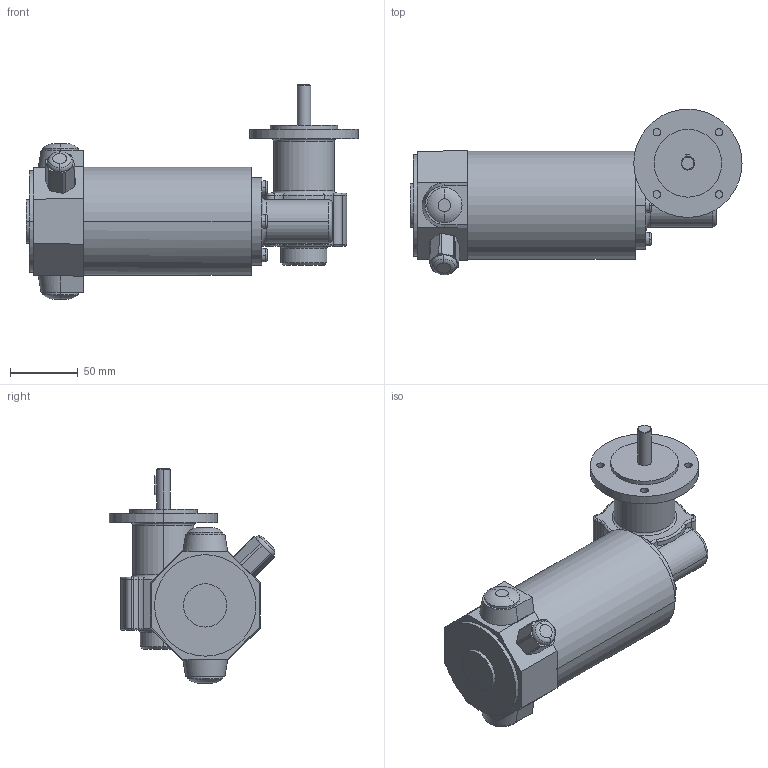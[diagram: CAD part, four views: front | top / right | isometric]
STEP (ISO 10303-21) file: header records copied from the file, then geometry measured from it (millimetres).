
FILE_DESCRIPTION(('OneSpaceDesigner STEP Export'),'2;1');
FILE_NAME('EPG13_GF126-10.stp','2008-07-02T14:27:03',(''),(''),'OneSpace Designer STEP processor (Jan. 2003) for AP214(CD)(Solid Model)','OneSpace Designer 12.01D 09-Jul-2004 (C) CoCreate Software GmbH','');
FILE_SCHEMA(('AUTOMOTIVE_DESIGN_CC2 {1 2 10303 214 -1 1 5 1}'));
Length unit declared in the file: millimetre
Products named in the file (2): EPG13_GF126-10
Assembly tree (1 placements, depth 2):
  EPG13_GF126-10
    EPG13_GF126-10
Bounding box: 245.5 x 122.39 x 158.5 mm (x, y, z)
Volume: 1176850.7 mm3; surface area: 90771.2 mm2
Topology: 1 solids, 1 shells, 217 faces, 525 edges, 327 vertices
Faces by surface type: cylinder 87, torus 74, plane 50, cone 4, bspline 2
Entity records: 8822 total; most frequent: CARTESIAN_POINT 4227, ORIENTED_EDGE 1050, DIRECTION 867, EDGE_CURVE 525, AXIS2_PLACEMENT_3D 357, VERTEX_POINT 327, EDGE_LOOP 242, CIRCLE 217
